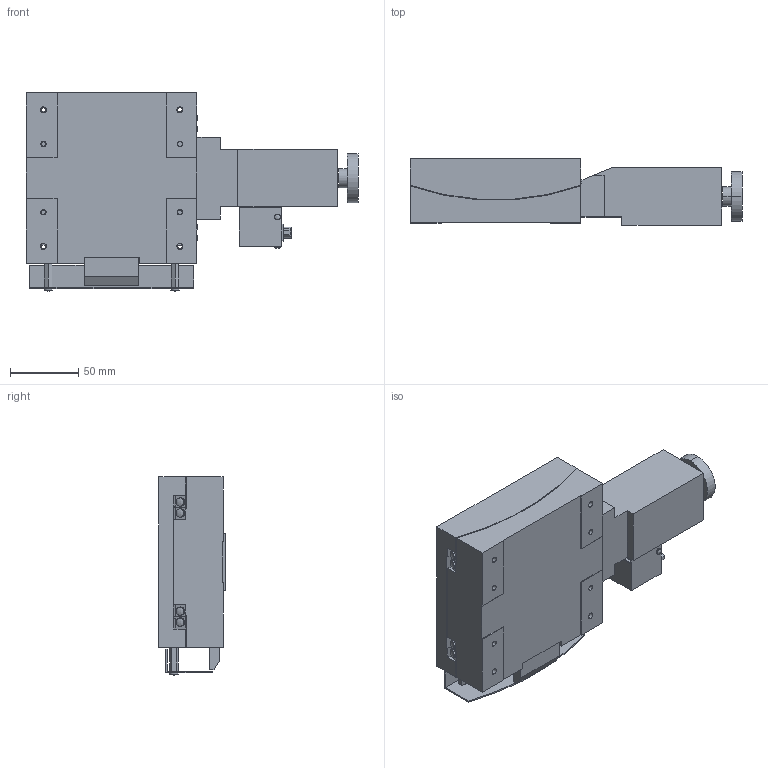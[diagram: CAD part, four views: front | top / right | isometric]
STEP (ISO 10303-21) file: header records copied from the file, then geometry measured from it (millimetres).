
FILE_DESCRIPTION (( 'STEP AP203' ), '1' );
FILE_NAME ('ATS-1220-HP.STEP', '2016-07-13T09:12:11', ( '' ), ( '' ), 'SwSTEP 2.0', 'SolidWorks 2011', '' );
FILE_SCHEMA (( 'CONFIG_CONTROL_DESIGN' ));
Length unit declared in the file: millimetre
Products named in the file (3): ATS-1220-HP; ATS-1220-HP-2; ATS-1220-HP-1
Assembly tree (2 placements, depth 2):
  ATS-1220-HP
    ATS-1220-HP-1
    ATS-1220-HP-2
Bounding box: 243.27 x 48.5 x 145.32 mm (x, y, z)
Volume: 915493.9 mm3; surface area: 144552.8 mm2
Topology: 2 solids, 2 shells, 409 faces, 1037 edges, 688 vertices
Faces by surface type: plane 192, cylinder 170, cone 26, sphere 16, bspline 5
Entity records: 14982 total; most frequent: CARTESIAN_POINT 4490, DIRECTION 2145, ORIENTED_EDGE 2074, EDGE_CURVE 1037, AXIS2_PLACEMENT_3D 783, VERTEX_POINT 688, VECTOR 579, LINE 579
